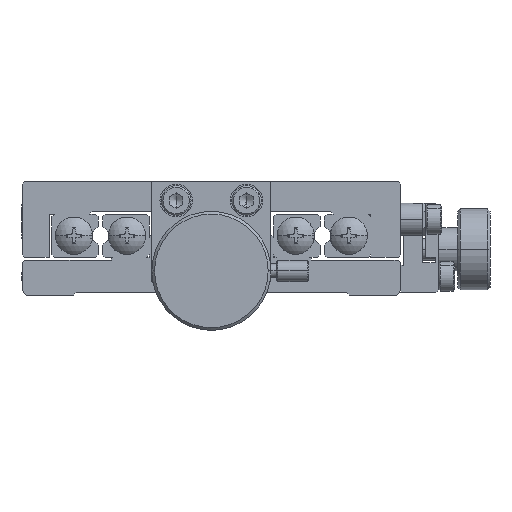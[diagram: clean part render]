
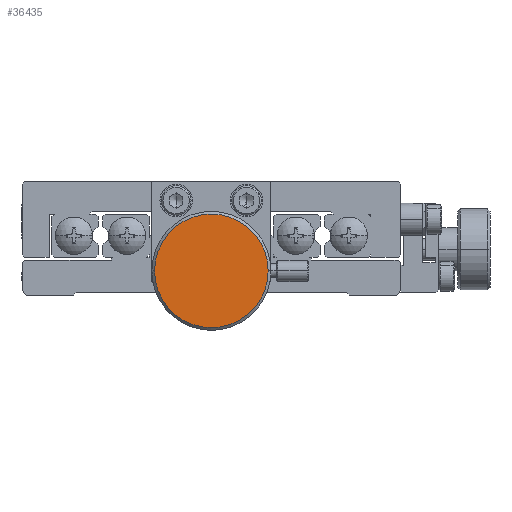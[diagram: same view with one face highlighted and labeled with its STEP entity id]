
A CAD part, front view. The second image highlights one B-rep face of the part: STEP entity #36435.
In plain terms, the highlighted planar face has unit normal (0, -1, 0).
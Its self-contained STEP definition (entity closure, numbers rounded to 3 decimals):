
#8004 = DIRECTION ( 'NONE',  ( 1., 0., 0. ) ) ;
#8005 = DIRECTION ( 'NONE',  ( 0., -1., 0. ) ) ;
#8006 = AXIS2_PLACEMENT_3D ( 'NONE', #8011, #8005, #8004 ) ;
#8007 = CIRCLE ( 'NONE', #8006, 10.5 ) ;
#8011 = CARTESIAN_POINT ( 'NONE',  ( 0., -110.5, 4.5 ) ) ;
#8014 = DIRECTION ( 'NONE',  ( 1., 0., 0. ) ) ;
#8015 = DIRECTION ( 'NONE',  ( 0., -1., 0. ) ) ;
#8016 = CARTESIAN_POINT ( 'NONE',  ( 0., -110.5, 4.5 ) ) ;
#8017 = AXIS2_PLACEMENT_3D ( 'NONE', #8016, #8015, #8014 ) ;
#8019 = PLANE ( 'NONE',  #8017 ) ;
#8025 = FACE_OUTER_BOUND ( 'NONE', #36438, .T. ) ;
#8087 = CARTESIAN_POINT ( 'NONE',  ( -10.5, -110.5, 4.5 ) ) ;
#8088 = CARTESIAN_POINT ( 'NONE',  ( 10.5, -110.5, 4.5 ) ) ;
#8089 = DIRECTION ( 'NONE',  ( 1., 0., 0. ) ) ;
#8090 = DIRECTION ( 'NONE',  ( 0., -1., 0. ) ) ;
#8091 = CARTESIAN_POINT ( 'NONE',  ( 0., -110.5, 4.5 ) ) ;
#8092 = AXIS2_PLACEMENT_3D ( 'NONE', #8091, #8090, #8089 ) ;
#8093 = CIRCLE ( 'NONE', #8092, 10.5 ) ;
#36435 = ADVANCED_FACE ( 'NONE', ( #8025 ), #8019, .T. ) ;
#36438 = EDGE_LOOP ( 'NONE', ( #36441, #36613 ) ) ;
#36441 = ORIENTED_EDGE ( 'NONE', *, *, #36442, .T. ) ;
#36442 = EDGE_CURVE ( 'NONE', #36499, #36497, #8007, .T. ) ;
#36495 = EDGE_CURVE ( 'NONE', #36497, #36499, #8093, .T. ) ;
#36497 = VERTEX_POINT ( 'NONE', #8088 ) ;
#36499 = VERTEX_POINT ( 'NONE', #8087 ) ;
#36613 = ORIENTED_EDGE ( 'NONE', *, *, #36495, .T. ) ;
